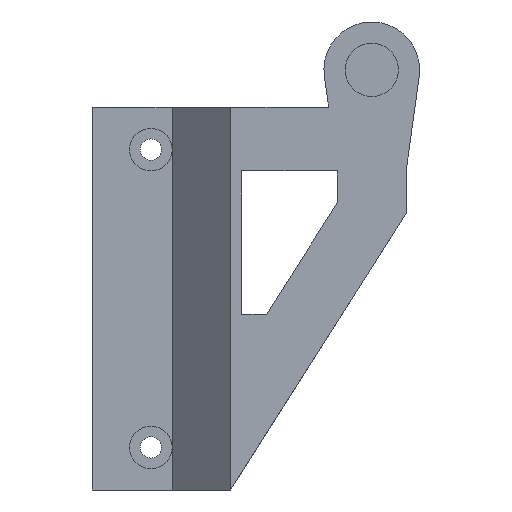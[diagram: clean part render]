
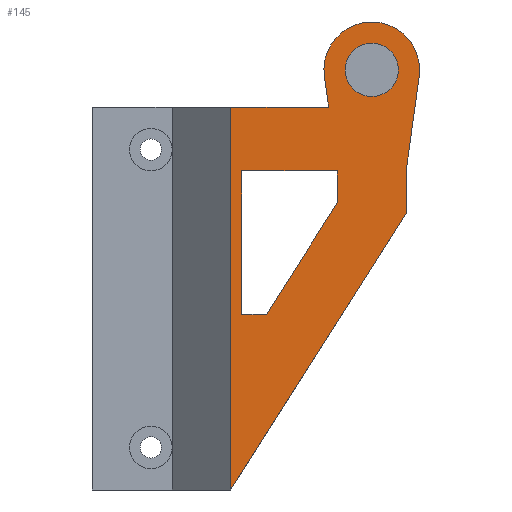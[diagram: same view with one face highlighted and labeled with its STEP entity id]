
A CAD part, left-side view. The second image highlights one B-rep face of the part: STEP entity #145.
In plain terms, the highlighted planar face has unit normal (-1, 0, 0).
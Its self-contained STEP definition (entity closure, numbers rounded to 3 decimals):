
#10 = EDGE_CURVE ( 'NONE', #1366, #120, #1001, .T. ) ;
#36 = VERTEX_POINT ( 'NONE', #1008 ) ;
#47 = LINE ( 'NONE', #171, #1188 ) ;
#61 = CARTESIAN_POINT ( 'NONE',  ( -17.5, -19.5, 8. ) ) ;
#70 = DIRECTION ( 'NONE',  ( 0., 1., 0. ) ) ;
#83 = ORIENTED_EDGE ( 'NONE', *, *, #235, .T. ) ;
#96 = VECTOR ( 'NONE', #167, 1000. ) ;
#98 = VERTEX_POINT ( 'NONE', #1458 ) ;
#100 = LINE ( 'NONE', #780, #576 ) ;
#104 = ORIENTED_EDGE ( 'NONE', *, *, #1302, .F. ) ;
#110 = VECTOR ( 'NONE', #968, 1000. ) ;
#120 = VERTEX_POINT ( 'NONE', #61 ) ;
#127 = ORIENTED_EDGE ( 'NONE', *, *, #569, .T. ) ;
#145 = ADVANCED_FACE ( 'NONE', ( #648, #1114, #1257 ), #1140, .F. ) ;
#166 = ORIENTED_EDGE ( 'NONE', *, *, #581, .F. ) ;
#167 = DIRECTION ( 'NONE',  ( 0., 0., -1. ) ) ;
#171 = CARTESIAN_POINT ( 'NONE',  ( -17.5, -3., -18. ) ) ;
#182 = EDGE_CURVE ( 'NONE', #1342, #471, #731, .T. ) ;
#186 = DIRECTION ( 'NONE',  ( -1., 0., 0. ) ) ;
#191 = CARTESIAN_POINT ( 'NONE',  ( -17.5, -19.5, 18. ) ) ;
#193 = CARTESIAN_POINT ( 'NONE',  ( -17.5, -3., -18. ) ) ;
#200 = DIRECTION ( 'NONE',  ( 0., -1., 0. ) ) ;
#203 = DIRECTION ( 'NONE',  ( 1., 0., 0. ) ) ;
#223 = LINE ( 'NONE', #561, #649 ) ;
#231 = AXIS2_PLACEMENT_3D ( 'NONE', #519, #186, #1340 ) ;
#235 = EDGE_CURVE ( 'NONE', #471, #1342, #777, .T. ) ;
#236 = VERTEX_POINT ( 'NONE', #1351 ) ;
#248 = CARTESIAN_POINT ( 'NONE',  ( -17.5, -13.036, 9.011 ) ) ;
#280 = ORIENTED_EDGE ( 'NONE', *, *, #992, .F. ) ;
#298 = ORIENTED_EDGE ( 'NONE', *, *, #828, .F. ) ;
#303 = VECTOR ( 'NONE', #1195, 1000. ) ;
#314 = CARTESIAN_POINT ( 'NONE',  ( -17.5, -19.5, 11.982 ) ) ;
#318 = CARTESIAN_POINT ( 'NONE',  ( -17.5, -3., 18. ) ) ;
#319 = CARTESIAN_POINT ( 'NONE',  ( -17.5, -6.365, -1.5 ) ) ;
#326 = LINE ( 'NONE', #1153, #444 ) ;
#341 = EDGE_LOOP ( 'NONE', ( #759, #127, #963, #1034, #280, #1222, #104 ) ) ;
#344 = AXIS2_PLACEMENT_3D ( 'NONE', #443, #760, #781 ) ;
#381 = VERTEX_POINT ( 'NONE', #470 ) ;
#436 = CARTESIAN_POINT ( 'NONE',  ( -17.5, -20.726, 20.886 ) ) ;
#443 = CARTESIAN_POINT ( 'NONE',  ( -17.5, -16.268, 21.5 ) ) ;
#444 = VECTOR ( 'NONE', #1133, 1000. ) ;
#447 = EDGE_LOOP ( 'NONE', ( #503, #83 ) ) ;
#453 = CARTESIAN_POINT ( 'NONE',  ( -17.5, -3., 18. ) ) ;
#458 = EDGE_CURVE ( 'NONE', #381, #36, #1324, .T. ) ;
#462 = DIRECTION ( 'NONE',  ( 0., -0.536, 0.844 ) ) ;
#470 = CARTESIAN_POINT ( 'NONE',  ( -17.5, -13.036, 12. ) ) ;
#471 = VERTEX_POINT ( 'NONE', #1235 ) ;
#492 = VERTEX_POINT ( 'NONE', #1344 ) ;
#503 = ORIENTED_EDGE ( 'NONE', *, *, #182, .T. ) ;
#519 = CARTESIAN_POINT ( 'NONE',  ( -17.5, -16.268, 21.5 ) ) ;
#524 = CARTESIAN_POINT ( 'NONE',  ( -17.5, -4.036, 12. ) ) ;
#527 = CARTESIAN_POINT ( 'NONE',  ( -17.5, -16.268, 21.5 ) ) ;
#553 = DIRECTION ( 'NONE',  ( 0., 0., -1. ) ) ;
#558 = LINE ( 'NONE', #319, #816 ) ;
#561 = CARTESIAN_POINT ( 'NONE',  ( -17.5, -4.036, -1.5 ) ) ;
#569 = EDGE_CURVE ( 'NONE', #1366, #1362, #326, .T. ) ;
#576 = VECTOR ( 'NONE', #553, 1000. ) ;
#581 = EDGE_CURVE ( 'NONE', #655, #1457, #558, .T. ) ;
#648 = FACE_BOUND ( 'NONE', #447, .T. ) ;
#649 = VECTOR ( 'NONE', #1165, 1000. ) ;
#655 = VERTEX_POINT ( 'NONE', #1009 ) ;
#664 = AXIS2_PLACEMENT_3D ( 'NONE', #318, #203, #775 ) ;
#714 = CARTESIAN_POINT ( 'NONE',  ( -17.5, -14.412, 1.984 ) ) ;
#715 = LINE ( 'NONE', #248, #110 ) ;
#731 = CIRCLE ( 'NONE', #1203, 2.5 ) ;
#759 = ORIENTED_EDGE ( 'NONE', *, *, #10, .F. ) ;
#760 = DIRECTION ( 'NONE',  ( 1., 0., 0. ) ) ;
#775 = DIRECTION ( 'NONE',  ( 0., 1., 0. ) ) ;
#777 = CIRCLE ( 'NONE', #344, 2.5 ) ;
#780 = CARTESIAN_POINT ( 'NONE',  ( -17.5, -3., 18. ) ) ;
#781 = DIRECTION ( 'NONE',  ( 0., 1., 0. ) ) ;
#787 = DIRECTION ( 'NONE',  ( 0., -1., 0. ) ) ;
#788 = ORIENTED_EDGE ( 'NONE', *, *, #1096, .F. ) ;
#816 = VECTOR ( 'NONE', #787, 1000. ) ;
#828 = EDGE_CURVE ( 'NONE', #492, #381, #715, .T. ) ;
#865 = DIRECTION ( 'NONE',  ( 0., 0.536, -0.844 ) ) ;
#878 = EDGE_CURVE ( 'NONE', #1362, #98, #1086, .T. ) ;
#883 = ORIENTED_EDGE ( 'NONE', *, *, #458, .F. ) ;
#895 = VECTOR ( 'NONE', #462, 1000. ) ;
#903 = LINE ( 'NONE', #1389, #895 ) ;
#949 = VECTOR ( 'NONE', #70, 1000. ) ;
#963 = ORIENTED_EDGE ( 'NONE', *, *, #878, .T. ) ;
#968 = DIRECTION ( 'NONE',  ( 0., 0., 1. ) ) ;
#992 = EDGE_CURVE ( 'NONE', #1083, #236, #1500, .T. ) ;
#1001 = LINE ( 'NONE', #191, #96 ) ;
#1008 = CARTESIAN_POINT ( 'NONE',  ( -17.5, -4.036, 12. ) ) ;
#1009 = CARTESIAN_POINT ( 'NONE',  ( -17.5, -4.036, -1.5 ) ) ;
#1014 = DIRECTION ( 'NONE',  ( 1., 0., 0. ) ) ;
#1034 = ORIENTED_EDGE ( 'NONE', *, *, #1154, .F. ) ;
#1040 = CARTESIAN_POINT ( 'NONE',  ( -17.5, -3., 18. ) ) ;
#1064 = CARTESIAN_POINT ( 'NONE',  ( -17.5, -6.365, -1.5 ) ) ;
#1083 = VERTEX_POINT ( 'NONE', #1040 ) ;
#1086 = CIRCLE ( 'NONE', #231, 4.5 ) ;
#1090 = EDGE_CURVE ( 'NONE', #1083, #1327, #100, .T. ) ;
#1096 = EDGE_CURVE ( 'NONE', #1457, #492, #903, .T. ) ;
#1114 = FACE_OUTER_BOUND ( 'NONE', #341, .T. ) ;
#1127 = CARTESIAN_POINT ( 'NONE',  ( -17.5, -16.268, 19. ) ) ;
#1133 = DIRECTION ( 'NONE',  ( 0., -0.136, 0.991 ) ) ;
#1140 = PLANE ( 'NONE',  #664 ) ;
#1153 = CARTESIAN_POINT ( 'NONE',  ( -17.5, -17.519, -2.411 ) ) ;
#1154 = EDGE_CURVE ( 'NONE', #236, #98, #1172, .T. ) ;
#1165 = DIRECTION ( 'NONE',  ( 0., 0., -1. ) ) ;
#1172 = LINE ( 'NONE', #714, #303 ) ;
#1188 = VECTOR ( 'NONE', #865, 1000. ) ;
#1195 = DIRECTION ( 'NONE',  ( 0., 0.136, 0.991 ) ) ;
#1203 = AXIS2_PLACEMENT_3D ( 'NONE', #527, #1014, #1487 ) ;
#1214 = VECTOR ( 'NONE', #200, 1000. ) ;
#1222 = ORIENTED_EDGE ( 'NONE', *, *, #1090, .T. ) ;
#1235 = CARTESIAN_POINT ( 'NONE',  ( -17.5, -16.268, 24. ) ) ;
#1257 = FACE_BOUND ( 'NONE', #1335, .T. ) ;
#1302 = EDGE_CURVE ( 'NONE', #120, #1327, #47, .T. ) ;
#1324 = LINE ( 'NONE', #524, #949 ) ;
#1327 = VERTEX_POINT ( 'NONE', #193 ) ;
#1335 = EDGE_LOOP ( 'NONE', ( #298, #788, #166, #1471, #883 ) ) ;
#1340 = DIRECTION ( 'NONE',  ( 0., 1., 0. ) ) ;
#1342 = VERTEX_POINT ( 'NONE', #1127 ) ;
#1344 = CARTESIAN_POINT ( 'NONE',  ( -17.5, -13.036, 9.011 ) ) ;
#1351 = CARTESIAN_POINT ( 'NONE',  ( -17.5, -12.207, 18. ) ) ;
#1362 = VERTEX_POINT ( 'NONE', #436 ) ;
#1366 = VERTEX_POINT ( 'NONE', #314 ) ;
#1389 = CARTESIAN_POINT ( 'NONE',  ( -17.5, -13.036, 9.011 ) ) ;
#1411 = EDGE_CURVE ( 'NONE', #36, #655, #223, .T. ) ;
#1457 = VERTEX_POINT ( 'NONE', #1064 ) ;
#1458 = CARTESIAN_POINT ( 'NONE',  ( -17.5, -11.81, 20.886 ) ) ;
#1471 = ORIENTED_EDGE ( 'NONE', *, *, #1411, .F. ) ;
#1487 = DIRECTION ( 'NONE',  ( 0., 1., 0. ) ) ;
#1500 = LINE ( 'NONE', #453, #1214 ) ;
